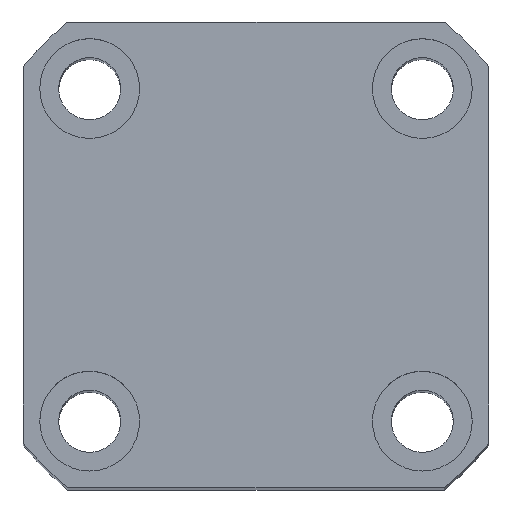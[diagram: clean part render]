
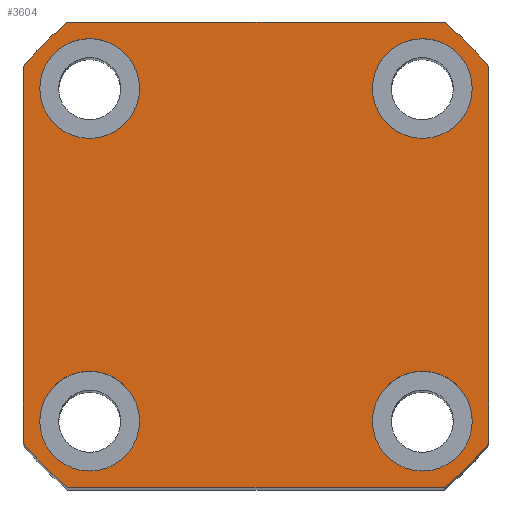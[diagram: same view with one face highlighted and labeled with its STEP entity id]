
A CAD part, top view. The second image highlights one B-rep face of the part: STEP entity #3604.
In plain terms, the highlighted planar face has unit normal (0, 0, 1).
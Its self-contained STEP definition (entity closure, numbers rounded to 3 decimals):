
#7 = AXIS2_PLACEMENT_3D ( 'NONE', #9660, #4760, #10465 ) ;
#50 = CARTESIAN_POINT ( 'NONE',  ( 15., 15., 118. ) ) ;
#130 = DIRECTION ( 'NONE',  ( 0., 0., 1. ) ) ;
#275 = DIRECTION ( 'NONE',  ( 1., 0., 0. ) ) ;
#316 = VERTEX_POINT ( 'NONE', #2130 ) ;
#379 = EDGE_CURVE ( 'NONE', #462, #9060, #8692, .T. ) ;
#384 = DIRECTION ( 'NONE',  ( 0., -1., 0. ) ) ;
#462 = VERTEX_POINT ( 'NONE', #2624 ) ;
#630 = AXIS2_PLACEMENT_3D ( 'NONE', #9193, #4278, #9999 ) ;
#707 = DIRECTION ( 'NONE',  ( 1., 0., 0. ) ) ;
#734 = EDGE_CURVE ( 'NONE', #4670, #462, #2520, .T. ) ;
#757 = CARTESIAN_POINT ( 'NONE',  ( 0., 0., 118. ) ) ;
#766 = DIRECTION ( 'NONE',  ( 1., 0., 0. ) ) ;
#904 = DIRECTION ( 'NONE',  ( 1., 0., 0. ) ) ;
#969 = CARTESIAN_POINT ( 'NONE',  ( -16.971, -21., 118. ) ) ;
#1211 = ORIENTED_EDGE ( 'NONE', *, *, #2397, .F. ) ;
#1385 = VERTEX_POINT ( 'NONE', #9137 ) ;
#1487 = CIRCLE ( 'NONE', #6369, 27. ) ;
#1589 = DIRECTION ( 'NONE',  ( 1., 0., 0. ) ) ;
#1733 = PLANE ( 'NONE',  #4246 ) ;
#1807 = CARTESIAN_POINT ( 'NONE',  ( -21., -21., 118. ) ) ;
#1839 = LINE ( 'NONE', #1807, #4015 ) ;
#1991 = CARTESIAN_POINT ( 'NONE',  ( -21., -16.971, 118. ) ) ;
#2130 = CARTESIAN_POINT ( 'NONE',  ( -10.5, 15.002, 118. ) ) ;
#2195 = FACE_BOUND ( 'NONE', #6383, .T. ) ;
#2223 = ORIENTED_EDGE ( 'NONE', *, *, #6443, .F. ) ;
#2253 = CARTESIAN_POINT ( 'NONE',  ( 21., 16.971, 118. ) ) ;
#2262 = EDGE_CURVE ( 'NONE', #10077, #8670, #2845, .T. ) ;
#2383 = ORIENTED_EDGE ( 'NONE', *, *, #9782, .T. ) ;
#2397 = EDGE_CURVE ( 'NONE', #9285, #5758, #10260, .T. ) ;
#2478 = VECTOR ( 'NONE', #9870, 1000. ) ;
#2503 = ORIENTED_EDGE ( 'NONE', *, *, #5348, .T. ) ;
#2520 = CIRCLE ( 'NONE', #9303, 27. ) ;
#2533 = AXIS2_PLACEMENT_3D ( 'NONE', #4505, #10218, #5330 ) ;
#2555 = DIRECTION ( 'NONE',  ( 0., 0., 1. ) ) ;
#2624 = CARTESIAN_POINT ( 'NONE',  ( -21., 16.971, 118. ) ) ;
#2642 = VERTEX_POINT ( 'NONE', #2253 ) ;
#2845 = CIRCLE ( 'NONE', #9097, 27. ) ;
#2925 = AXIS2_PLACEMENT_3D ( 'NONE', #4032, #9765, #4867 ) ;
#2959 = FACE_BOUND ( 'NONE', #9584, .T. ) ;
#3079 = CARTESIAN_POINT ( 'NONE',  ( 21., -16.971, 118. ) ) ;
#3230 = ORIENTED_EDGE ( 'NONE', *, *, #7363, .F. ) ;
#3242 = CARTESIAN_POINT ( 'NONE',  ( -19.5, 15.002, 118. ) ) ;
#3290 = VERTEX_POINT ( 'NONE', #969 ) ;
#3394 = AXIS2_PLACEMENT_3D ( 'NONE', #50, #5806, #904 ) ;
#3406 = CIRCLE ( 'NONE', #7, 4.5 ) ;
#3604 = ADVANCED_FACE ( 'NONE', ( #2195, #2959, #10612, #8468, #6295 ), #1733, .T. ) ;
#3641 = AXIS2_PLACEMENT_3D ( 'NONE', #10499, #5622, #707 ) ;
#3702 = CARTESIAN_POINT ( 'NONE',  ( -21., 21., 118. ) ) ;
#3955 = CARTESIAN_POINT ( 'NONE',  ( 21., 21., 118. ) ) ;
#4015 = VECTOR ( 'NONE', #7530, 1000. ) ;
#4022 = CARTESIAN_POINT ( 'NONE',  ( 19.5, 15., 118. ) ) ;
#4032 = CARTESIAN_POINT ( 'NONE',  ( -15., -14.998, 118. ) ) ;
#4246 = AXIS2_PLACEMENT_3D ( 'NONE', #9066, #2555, #8280 ) ;
#4278 = DIRECTION ( 'NONE',  ( 0., 0., 1. ) ) ;
#4505 = CARTESIAN_POINT ( 'NONE',  ( 15., -14.998, 118. ) ) ;
#4582 = VERTEX_POINT ( 'NONE', #6074 ) ;
#4670 = VERTEX_POINT ( 'NONE', #6225 ) ;
#4760 = DIRECTION ( 'NONE',  ( 0., 0., 1. ) ) ;
#4776 = CARTESIAN_POINT ( 'NONE',  ( 0., 0., 118. ) ) ;
#4789 = EDGE_CURVE ( 'NONE', #4854, #316, #9661, .T. ) ;
#4854 = VERTEX_POINT ( 'NONE', #3242 ) ;
#4867 = DIRECTION ( 'NONE',  ( 1., 0., 0. ) ) ;
#4894 = ORIENTED_EDGE ( 'NONE', *, *, #4789, .F. ) ;
#4980 = EDGE_LOOP ( 'NONE', ( #6691, #1211 ) ) ;
#5055 = EDGE_CURVE ( 'NONE', #3290, #10077, #1839, .T. ) ;
#5073 = CARTESIAN_POINT ( 'NONE',  ( 15., -14.998, 118. ) ) ;
#5193 = EDGE_CURVE ( 'NONE', #5758, #9285, #10289, .T. ) ;
#5210 = DIRECTION ( 'NONE',  ( 0., 0., 1. ) ) ;
#5330 = DIRECTION ( 'NONE',  ( 1., 0., 0. ) ) ;
#5348 = EDGE_CURVE ( 'NONE', #4582, #4670, #5937, .T. ) ;
#5442 = CARTESIAN_POINT ( 'NONE',  ( 19.5, -14.998, 118. ) ) ;
#5568 = CIRCLE ( 'NONE', #630, 4.5 ) ;
#5576 = LINE ( 'NONE', #3955, #10168 ) ;
#5604 = DIRECTION ( 'NONE',  ( 1., 0., 0. ) ) ;
#5622 = DIRECTION ( 'NONE',  ( 0., 0., 1. ) ) ;
#5639 = AXIS2_PLACEMENT_3D ( 'NONE', #10104, #5210, #275 ) ;
#5678 = DIRECTION ( 'NONE',  ( 0., 0., 1. ) ) ;
#5725 = EDGE_LOOP ( 'NONE', ( #10277, #10517 ) ) ;
#5758 = VERTEX_POINT ( 'NONE', #4022 ) ;
#5786 = CARTESIAN_POINT ( 'NONE',  ( -10.5, -14.998, 118. ) ) ;
#5806 = DIRECTION ( 'NONE',  ( 0., 0., 1. ) ) ;
#5892 = DIRECTION ( 'NONE',  ( 1., 0., 0. ) ) ;
#5937 = LINE ( 'NONE', #3702, #2478 ) ;
#5958 = ORIENTED_EDGE ( 'NONE', *, *, #379, .T. ) ;
#6074 = CARTESIAN_POINT ( 'NONE',  ( 16.971, 21., 118. ) ) ;
#6092 = CARTESIAN_POINT ( 'NONE',  ( -21., 21., 118. ) ) ;
#6225 = CARTESIAN_POINT ( 'NONE',  ( -16.971, 21., 118. ) ) ;
#6256 = CARTESIAN_POINT ( 'NONE',  ( 16.971, -21., 118. ) ) ;
#6295 = FACE_OUTER_BOUND ( 'NONE', #10356, .T. ) ;
#6369 = AXIS2_PLACEMENT_3D ( 'NONE', #4776, #10488, #5604 ) ;
#6383 = EDGE_LOOP ( 'NONE', ( #2223, #4894 ) ) ;
#6443 = EDGE_CURVE ( 'NONE', #316, #4854, #3406, .T. ) ;
#6488 = DIRECTION ( 'NONE',  ( 0., 0., 1. ) ) ;
#6568 = ORIENTED_EDGE ( 'NONE', *, *, #8282, .T. ) ;
#6586 = CIRCLE ( 'NONE', #2533, 4.5 ) ;
#6691 = ORIENTED_EDGE ( 'NONE', *, *, #5193, .F. ) ;
#7363 = EDGE_CURVE ( 'NONE', #8947, #1385, #8025, .T. ) ;
#7530 = DIRECTION ( 'NONE',  ( 1., 0., 0. ) ) ;
#7620 = DIRECTION ( 'NONE',  ( 1., 0., 0. ) ) ;
#7696 = DIRECTION ( 'NONE',  ( 0., 0., 1. ) ) ;
#7738 = CIRCLE ( 'NONE', #10147, 4.5 ) ;
#7871 = ORIENTED_EDGE ( 'NONE', *, *, #10466, .F. ) ;
#8025 = CIRCLE ( 'NONE', #2925, 4.5 ) ;
#8032 = ORIENTED_EDGE ( 'NONE', *, *, #2262, .T. ) ;
#8280 = DIRECTION ( 'NONE',  ( 1., 0., 0. ) ) ;
#8282 = EDGE_CURVE ( 'NONE', #2642, #4582, #1487, .T. ) ;
#8367 = AXIS2_PLACEMENT_3D ( 'NONE', #10551, #5678, #766 ) ;
#8468 = FACE_BOUND ( 'NONE', #4980, .T. ) ;
#8670 = VERTEX_POINT ( 'NONE', #3079 ) ;
#8692 = LINE ( 'NONE', #6092, #10571 ) ;
#8947 = VERTEX_POINT ( 'NONE', #5786 ) ;
#9060 = VERTEX_POINT ( 'NONE', #1991 ) ;
#9066 = CARTESIAN_POINT ( 'NONE',  ( 0., 0., 118. ) ) ;
#9097 = AXIS2_PLACEMENT_3D ( 'NONE', #757, #6488, #1589 ) ;
#9105 = EDGE_CURVE ( 'NONE', #10241, #9235, #6586, .T. ) ;
#9137 = CARTESIAN_POINT ( 'NONE',  ( -19.5, -14.998, 118. ) ) ;
#9193 = CARTESIAN_POINT ( 'NONE',  ( -15., -14.998, 118. ) ) ;
#9235 = VERTEX_POINT ( 'NONE', #5442 ) ;
#9285 = VERTEX_POINT ( 'NONE', #10424 ) ;
#9303 = AXIS2_PLACEMENT_3D ( 'NONE', #10607, #7696, #7620 ) ;
#9360 = EDGE_CURVE ( 'NONE', #8670, #2642, #5576, .T. ) ;
#9557 = ORIENTED_EDGE ( 'NONE', *, *, #734, .T. ) ;
#9584 = EDGE_LOOP ( 'NONE', ( #3230, #7871 ) ) ;
#9660 = CARTESIAN_POINT ( 'NONE',  ( -15., 15.002, 118. ) ) ;
#9661 = CIRCLE ( 'NONE', #3641, 4.5 ) ;
#9730 = CARTESIAN_POINT ( 'NONE',  ( 10.5, -14.998, 118. ) ) ;
#9765 = DIRECTION ( 'NONE',  ( 0., 0., 1. ) ) ;
#9782 = EDGE_CURVE ( 'NONE', #9060, #3290, #10534, .T. ) ;
#9870 = DIRECTION ( 'NONE',  ( -1., 0., 0. ) ) ;
#9929 = ORIENTED_EDGE ( 'NONE', *, *, #5055, .T. ) ;
#9999 = DIRECTION ( 'NONE',  ( 1., 0., 0. ) ) ;
#10077 = VERTEX_POINT ( 'NONE', #6256 ) ;
#10104 = CARTESIAN_POINT ( 'NONE',  ( 15., 15., 118. ) ) ;
#10147 = AXIS2_PLACEMENT_3D ( 'NONE', #5073, #130, #5892 ) ;
#10168 = VECTOR ( 'NONE', #10457, 1000. ) ;
#10218 = DIRECTION ( 'NONE',  ( 0., 0., 1. ) ) ;
#10241 = VERTEX_POINT ( 'NONE', #9730 ) ;
#10260 = CIRCLE ( 'NONE', #3394, 4.5 ) ;
#10277 = ORIENTED_EDGE ( 'NONE', *, *, #10449, .F. ) ;
#10289 = CIRCLE ( 'NONE', #5639, 4.5 ) ;
#10356 = EDGE_LOOP ( 'NONE', ( #10400, #6568, #2503, #9557, #5958, #2383, #9929, #8032 ) ) ;
#10400 = ORIENTED_EDGE ( 'NONE', *, *, #9360, .T. ) ;
#10424 = CARTESIAN_POINT ( 'NONE',  ( 10.5, 15., 118. ) ) ;
#10449 = EDGE_CURVE ( 'NONE', #9235, #10241, #7738, .T. ) ;
#10457 = DIRECTION ( 'NONE',  ( 0., 1., 0. ) ) ;
#10465 = DIRECTION ( 'NONE',  ( 1., 0., 0. ) ) ;
#10466 = EDGE_CURVE ( 'NONE', #1385, #8947, #5568, .T. ) ;
#10488 = DIRECTION ( 'NONE',  ( 0., 0., 1. ) ) ;
#10499 = CARTESIAN_POINT ( 'NONE',  ( -15., 15.002, 118. ) ) ;
#10517 = ORIENTED_EDGE ( 'NONE', *, *, #9105, .F. ) ;
#10534 = CIRCLE ( 'NONE', #8367, 27. ) ;
#10551 = CARTESIAN_POINT ( 'NONE',  ( 0., 0., 118. ) ) ;
#10571 = VECTOR ( 'NONE', #384, 1000. ) ;
#10607 = CARTESIAN_POINT ( 'NONE',  ( 0., 0., 118. ) ) ;
#10612 = FACE_BOUND ( 'NONE', #5725, .T. ) ;
